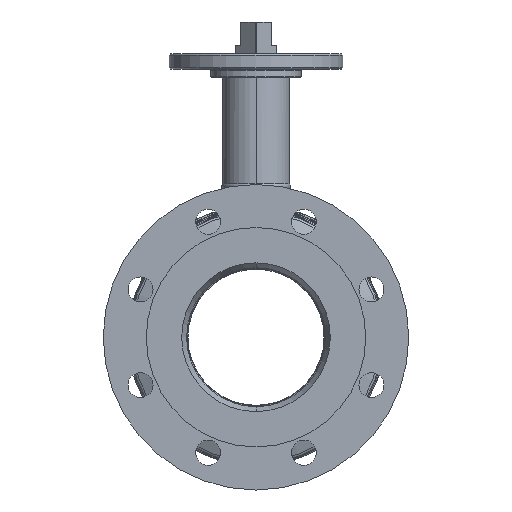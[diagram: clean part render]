
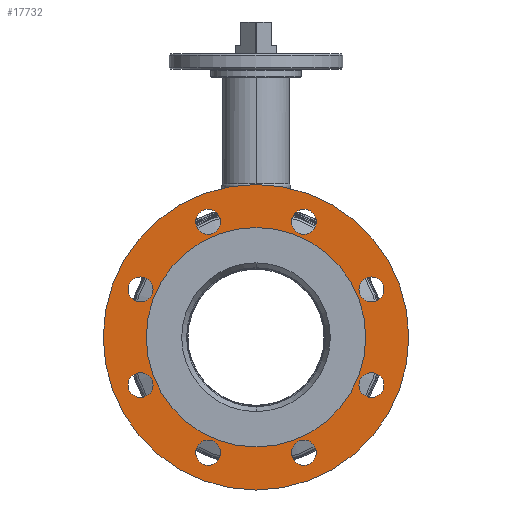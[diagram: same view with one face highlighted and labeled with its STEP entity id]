
A CAD part, left-side view. The second image highlights one B-rep face of the part: STEP entity #17732.
In plain terms, the highlighted planar face has unit normal (-1, 0, 0).
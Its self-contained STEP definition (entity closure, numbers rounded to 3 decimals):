
#5960=CARTESIAN_POINT('',(-173.,0.,0.));
#5961=DIRECTION('',(1.,0.,0.));
#5962=DIRECTION('',(0.,0.,1.));
#5963=AXIS2_PLACEMENT_3D('',#5960,#5961,#5962);
#5969=CARTESIAN_POINT('',(-173.,0.,0.));
#5970=DIRECTION('',(-1.,0.,0.));
#5971=DIRECTION('',(0.,0.,1.));
#5972=AXIS2_PLACEMENT_3D('',#5969,#5970,#5971);
#5978=CARTESIAN_POINT('',(-173.,0.,0.));
#5979=DIRECTION('',(-1.,0.,0.));
#5980=DIRECTION('',(0.,0.,1.));
#5981=AXIS2_PLACEMENT_3D('',#5978,#5979,#5980);
#5983=CARTESIAN_POINT('',(-173.,0.,0.));
#5984=DIRECTION('',(-1.,0.,0.));
#5985=DIRECTION('',(0.,0.,-1.));
#5986=AXIS2_PLACEMENT_3D('',#5983,#5984,#5985);
#5988=CARTESIAN_POINT('',(-173.,34.442,-83.149));
#5989=DIRECTION('',(-1.,0.,0.));
#5990=DIRECTION('',(0.,-1.,0.));
#5991=AXIS2_PLACEMENT_3D('',#5988,#5989,#5990);
#5993=CARTESIAN_POINT('',(-173.,34.442,-83.149));
#5994=DIRECTION('',(-1.,0.,0.));
#5995=DIRECTION('',(0.,1.,0.));
#5996=AXIS2_PLACEMENT_3D('',#5993,#5994,#5995);
#5998=CARTESIAN_POINT('',(-173.,83.149,-34.442));
#5999=DIRECTION('',(-1.,0.,0.));
#6000=DIRECTION('',(0.,-1.,0.));
#6001=AXIS2_PLACEMENT_3D('',#5998,#5999,#6000);
#6003=CARTESIAN_POINT('',(-173.,83.149,-34.442));
#6004=DIRECTION('',(-1.,0.,0.));
#6005=DIRECTION('',(0.,1.,0.));
#6006=AXIS2_PLACEMENT_3D('',#6003,#6004,#6005);
#6008=CARTESIAN_POINT('',(-173.,83.149,34.442));
#6009=DIRECTION('',(-1.,0.,0.));
#6010=DIRECTION('',(0.,-1.,0.));
#6011=AXIS2_PLACEMENT_3D('',#6008,#6009,#6010);
#6013=CARTESIAN_POINT('',(-173.,83.149,34.442));
#6014=DIRECTION('',(-1.,0.,0.));
#6015=DIRECTION('',(0.,1.,0.));
#6016=AXIS2_PLACEMENT_3D('',#6013,#6014,#6015);
#6018=CARTESIAN_POINT('',(-173.,34.442,83.149));
#6019=DIRECTION('',(-1.,0.,0.));
#6020=DIRECTION('',(0.,-1.,0.));
#6021=AXIS2_PLACEMENT_3D('',#6018,#6019,#6020);
#6023=CARTESIAN_POINT('',(-173.,34.442,83.149));
#6024=DIRECTION('',(-1.,0.,0.));
#6025=DIRECTION('',(0.,1.,0.));
#6026=AXIS2_PLACEMENT_3D('',#6023,#6024,#6025);
#6028=CARTESIAN_POINT('',(-173.,-34.442,83.149));
#6029=DIRECTION('',(-1.,0.,0.));
#6030=DIRECTION('',(0.,-1.,0.));
#6031=AXIS2_PLACEMENT_3D('',#6028,#6029,#6030);
#6033=CARTESIAN_POINT('',(-173.,-34.442,83.149));
#6034=DIRECTION('',(-1.,0.,0.));
#6035=DIRECTION('',(0.,1.,0.));
#6036=AXIS2_PLACEMENT_3D('',#6033,#6034,#6035);
#6038=CARTESIAN_POINT('',(-173.,-83.149,34.442));
#6039=DIRECTION('',(-1.,0.,0.));
#6040=DIRECTION('',(0.,-1.,0.));
#6041=AXIS2_PLACEMENT_3D('',#6038,#6039,#6040);
#6043=CARTESIAN_POINT('',(-173.,-83.149,34.442));
#6044=DIRECTION('',(-1.,0.,0.));
#6045=DIRECTION('',(0.,1.,0.));
#6046=AXIS2_PLACEMENT_3D('',#6043,#6044,#6045);
#6048=CARTESIAN_POINT('',(-173.,-83.149,-34.442));
#6049=DIRECTION('',(-1.,0.,0.));
#6050=DIRECTION('',(0.,-1.,0.));
#6051=AXIS2_PLACEMENT_3D('',#6048,#6049,#6050);
#6053=CARTESIAN_POINT('',(-173.,-83.149,-34.442));
#6054=DIRECTION('',(-1.,0.,0.));
#6055=DIRECTION('',(0.,1.,0.));
#6056=AXIS2_PLACEMENT_3D('',#6053,#6054,#6055);
#6058=CARTESIAN_POINT('',(-173.,-34.442,-83.149));
#6059=DIRECTION('',(-1.,0.,0.));
#6060=DIRECTION('',(0.,-1.,0.));
#6061=AXIS2_PLACEMENT_3D('',#6058,#6059,#6060);
#6063=CARTESIAN_POINT('',(-173.,-34.442,-83.149));
#6064=DIRECTION('',(-1.,0.,0.));
#6065=DIRECTION('',(0.,1.,0.));
#6066=AXIS2_PLACEMENT_3D('',#6063,#6064,#6065);
#8420=CARTESIAN_POINT('',(-173.,0.,79.));
#8421=CARTESIAN_POINT('',(-173.,0.,-79.));
#8422=VERTEX_POINT('',#8420);
#8423=VERTEX_POINT('',#8421);
#8424=CARTESIAN_POINT('',(-173.,0.,110.));
#8425=CARTESIAN_POINT('',(-173.,0.,-110.));
#8426=VERTEX_POINT('',#8424);
#8427=VERTEX_POINT('',#8425);
#8432=CARTESIAN_POINT('',(-173.,25.442,-83.149));
#8433=CARTESIAN_POINT('',(-173.,43.442,-83.149));
#8434=VERTEX_POINT('',#8432);
#8435=VERTEX_POINT('',#8433);
#8436=CARTESIAN_POINT('',(-173.,74.149,-34.442));
#8437=CARTESIAN_POINT('',(-173.,92.149,-34.442));
#8438=VERTEX_POINT('',#8436);
#8439=VERTEX_POINT('',#8437);
#8440=CARTESIAN_POINT('',(-173.,74.149,34.442));
#8441=CARTESIAN_POINT('',(-173.,92.149,34.442));
#8442=VERTEX_POINT('',#8440);
#8443=VERTEX_POINT('',#8441);
#8444=CARTESIAN_POINT('',(-173.,25.442,83.149));
#8445=CARTESIAN_POINT('',(-173.,43.442,83.149));
#8446=VERTEX_POINT('',#8444);
#8447=VERTEX_POINT('',#8445);
#8448=CARTESIAN_POINT('',(-173.,-43.442,83.149));
#8449=CARTESIAN_POINT('',(-173.,-25.442,83.149));
#8450=VERTEX_POINT('',#8448);
#8451=VERTEX_POINT('',#8449);
#8452=CARTESIAN_POINT('',(-173.,-92.149,34.442));
#8453=CARTESIAN_POINT('',(-173.,-74.149,34.442));
#8454=VERTEX_POINT('',#8452);
#8455=VERTEX_POINT('',#8453);
#8456=CARTESIAN_POINT('',(-173.,-92.149,-34.442));
#8457=CARTESIAN_POINT('',(-173.,-74.149,-34.442));
#8458=VERTEX_POINT('',#8456);
#8459=VERTEX_POINT('',#8457);
#8460=CARTESIAN_POINT('',(-173.,-43.442,-83.149));
#8461=CARTESIAN_POINT('',(-173.,-25.442,-83.149));
#8462=VERTEX_POINT('',#8460);
#8463=VERTEX_POINT('',#8461);
#17669=CARTESIAN_POINT('',(-173.,0.,0.));
#17670=DIRECTION('',(1.,0.,0.));
#17671=DIRECTION('',(0.,0.,1.));
#17672=AXIS2_PLACEMENT_3D('',#17669,#17670,#17671);
#17673=PLANE('',#17672);
#17675=ORIENTED_EDGE('',*,*,#17674,.F.);
#17677=ORIENTED_EDGE('',*,*,#17676,.F.);
#17678=EDGE_LOOP('',(#17675,#17677));
#17679=FACE_OUTER_BOUND('',#17678,.F.);
#17680=ORIENTED_EDGE('',*,*,#17663,.T.);
#17681=ORIENTED_EDGE('',*,*,#17649,.F.);
#17682=EDGE_LOOP('',(#17680,#17681));
#17683=FACE_BOUND('',#17682,.F.);
#17685=ORIENTED_EDGE('',*,*,#17684,.T.);
#17687=ORIENTED_EDGE('',*,*,#17686,.T.);
#17688=EDGE_LOOP('',(#17685,#17687));
#17689=FACE_BOUND('',#17688,.F.);
#17691=ORIENTED_EDGE('',*,*,#17690,.T.);
#17693=ORIENTED_EDGE('',*,*,#17692,.T.);
#17694=EDGE_LOOP('',(#17691,#17693));
#17695=FACE_BOUND('',#17694,.F.);
#17697=ORIENTED_EDGE('',*,*,#17696,.T.);
#17699=ORIENTED_EDGE('',*,*,#17698,.T.);
#17700=EDGE_LOOP('',(#17697,#17699));
#17701=FACE_BOUND('',#17700,.F.);
#17703=ORIENTED_EDGE('',*,*,#17702,.T.);
#17705=ORIENTED_EDGE('',*,*,#17704,.T.);
#17706=EDGE_LOOP('',(#17703,#17705));
#17707=FACE_BOUND('',#17706,.F.);
#17709=ORIENTED_EDGE('',*,*,#17708,.T.);
#17711=ORIENTED_EDGE('',*,*,#17710,.T.);
#17712=EDGE_LOOP('',(#17709,#17711));
#17713=FACE_BOUND('',#17712,.F.);
#17715=ORIENTED_EDGE('',*,*,#17714,.T.);
#17717=ORIENTED_EDGE('',*,*,#17716,.T.);
#17718=EDGE_LOOP('',(#17715,#17717));
#17719=FACE_BOUND('',#17718,.F.);
#17721=ORIENTED_EDGE('',*,*,#17720,.T.);
#17723=ORIENTED_EDGE('',*,*,#17722,.T.);
#17724=EDGE_LOOP('',(#17721,#17723));
#17725=FACE_BOUND('',#17724,.F.);
#17727=ORIENTED_EDGE('',*,*,#17726,.T.);
#17729=ORIENTED_EDGE('',*,*,#17728,.T.);
#17730=EDGE_LOOP('',(#17727,#17729));
#17731=FACE_BOUND('',#17730,.F.);
#17732=ADVANCED_FACE('',(#17679,#17683,#17689,#17695,#17701,#17707,#17713,
#17719,#17725,#17731),#17673,.F.);
#5964=CIRCLE('',#5963,79.);
#5973=CIRCLE('',#5972,79.);
#5982=CIRCLE('',#5981,110.);
#5987=CIRCLE('',#5986,110.);
#5992=CIRCLE('',#5991,9.);
#5997=CIRCLE('',#5996,9.);
#6002=CIRCLE('',#6001,9.);
#6007=CIRCLE('',#6006,9.);
#6012=CIRCLE('',#6011,9.);
#6017=CIRCLE('',#6016,9.);
#6022=CIRCLE('',#6021,9.);
#6027=CIRCLE('',#6026,9.);
#6032=CIRCLE('',#6031,9.);
#6037=CIRCLE('',#6036,9.);
#6042=CIRCLE('',#6041,9.);
#6047=CIRCLE('',#6046,9.);
#6052=CIRCLE('',#6051,9.);
#6057=CIRCLE('',#6056,9.);
#6062=CIRCLE('',#6061,9.);
#6067=CIRCLE('',#6066,9.);
#17649=EDGE_CURVE('',#8422,#8423,#5964,.T.);
#17663=EDGE_CURVE('',#8422,#8423,#5973,.T.);
#17674=EDGE_CURVE('',#8426,#8427,#5982,.T.);
#17676=EDGE_CURVE('',#8427,#8426,#5987,.T.);
#17684=EDGE_CURVE('',#8434,#8435,#5992,.T.);
#17686=EDGE_CURVE('',#8435,#8434,#5997,.T.);
#17690=EDGE_CURVE('',#8438,#8439,#6002,.T.);
#17692=EDGE_CURVE('',#8439,#8438,#6007,.T.);
#17696=EDGE_CURVE('',#8442,#8443,#6012,.T.);
#17698=EDGE_CURVE('',#8443,#8442,#6017,.T.);
#17702=EDGE_CURVE('',#8446,#8447,#6022,.T.);
#17704=EDGE_CURVE('',#8447,#8446,#6027,.T.);
#17708=EDGE_CURVE('',#8450,#8451,#6032,.T.);
#17710=EDGE_CURVE('',#8451,#8450,#6037,.T.);
#17714=EDGE_CURVE('',#8454,#8455,#6042,.T.);
#17716=EDGE_CURVE('',#8455,#8454,#6047,.T.);
#17720=EDGE_CURVE('',#8458,#8459,#6052,.T.);
#17722=EDGE_CURVE('',#8459,#8458,#6057,.T.);
#17726=EDGE_CURVE('',#8462,#8463,#6062,.T.);
#17728=EDGE_CURVE('',#8463,#8462,#6067,.T.);
